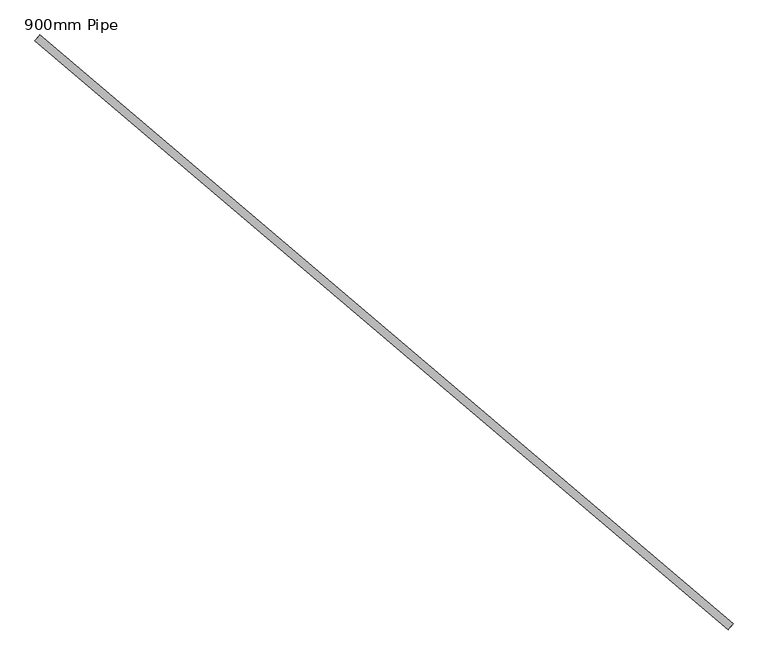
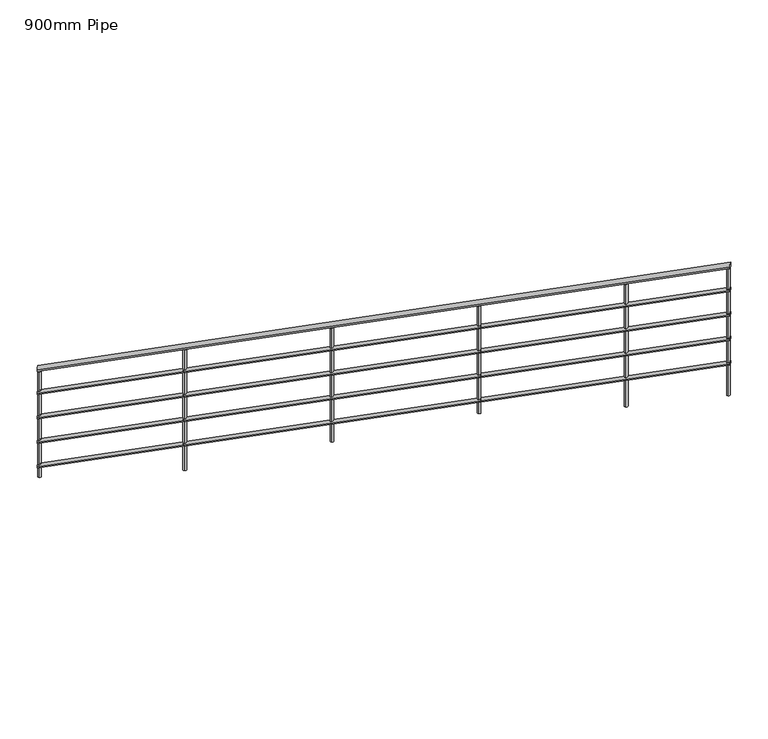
"""IFC4 building model written with IfcOpenShell, lengths in millimetres: railing geometry, 900mm Pipe."""

from ifc_helpers import new_model, si_unit, frame, origin, place, context, project, spatial, circle_curve, ellipse_curve, source, transform, mapped, element, save
from ifc_brep_helpers import plane_surface, cylinder_surface, advanced_brep


def railing_900mm_pipe_b8c9b738(model_context):
    return source(origin(), model_context, "Body", "AdvancedBrep", [
        advanced_brep(
        [(849600.7277722, 50607.9907218, 2058.386247), (849574.833531, 50577.5032116, 2058.386247), (853188.5636462, 47560.7006333, 3492.7391882), (853162.6694051, 47530.2131232, 3492.7391882)],
        [
            (0, 1, ellipse_curve(frame((849587.7806516, 50592.7469667, 2058.386247), z_axis=(-0.7621877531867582, 0.6473560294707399, 0.0), x_axis=(0.0, 0.0, -1.0)), 20.9078706, 20.0)),
            (1, 0, ellipse_curve(frame((849587.7806516, 50592.7469667, 2058.386247), z_axis=(-0.7621877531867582, 0.6473560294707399, 0.0), x_axis=(0.0, 0.0, -1.0)), 20.9078706, 20.0)),
            (2, 3, ellipse_curve(frame((853175.6165256, 47545.4568783, 3492.7391882), z_axis=(0.7621877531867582, -0.6473560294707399, 0.0), x_axis=(0.0, 0.0, -1.0)), 20.9078706, 20.0)),
            (3, 2, ellipse_curve(frame((853175.6165256, 47545.4568783, 3492.7391882), z_axis=(0.7621877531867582, -0.6473560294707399, 0.0), x_axis=(0.0, 0.0, -1.0)), 20.9078706, 20.0)),
            (0, 2),
            (3, 1),
        ],
        [
            plane_surface(frame((849587.7806516, 50592.7469667, 2079.2941176), z_axis=(-0.7621877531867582, 0.6473560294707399, 0.0), x_axis=(0.6473560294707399, 0.7621877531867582, 0.0))),
            plane_surface(frame((853175.6165256, 47545.4568783, 3513.6470588), z_axis=(0.7621877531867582, -0.6473560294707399, 0.0), x_axis=(0.6473560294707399, 0.7621877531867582, 0.0))),
            cylinder_surface(frame((849592.2238692, 50588.9731673, 2060.1625663), z_axis=(-0.7290917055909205, 0.6192462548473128, -0.2914778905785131), x_axis=(-0.6473560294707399, -0.7621877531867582, 0.0)), 20.0),
        ],
        [
            (0, [[1, 2]]),
            (1, [[3, 4]]),
            (2, [[-1, 5, -4, 6]]),
            (2, [[-2, -6, -3, -5]]),
        ],
    ),
        advanced_brep(
        [(849597.4909921, 50604.179783, 1863.6132147), (849578.0703112, 50581.3141504, 1863.6132147), (853185.3268661, 47556.8896946, 3297.9661558), (853165.9061852, 47534.024062, 3297.9661558)],
        [
            (0, 1, ellipse_curve(frame((849587.7806516, 50592.7469667, 1863.6132147), z_axis=(-0.7621877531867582, 0.6473560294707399, 0.0), x_axis=(0.0, 0.0, -1.0)), 15.680903, 15.0)),
            (1, 0, ellipse_curve(frame((849587.7806516, 50592.7469667, 1863.6132147), z_axis=(-0.7621877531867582, 0.6473560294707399, 0.0), x_axis=(0.0, 0.0, -1.0)), 15.680903, 15.0)),
            (2, 3, ellipse_curve(frame((853175.6165256, 47545.4568783, 3297.9661558), z_axis=(0.7621877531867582, -0.6473560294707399, 0.0), x_axis=(0.0, 0.0, -1.0)), 15.680903, 15.0)),
            (3, 2, ellipse_curve(frame((853175.6165256, 47545.4568783, 3297.9661558), z_axis=(0.7621877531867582, -0.6473560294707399, 0.0), x_axis=(0.0, 0.0, -1.0)), 15.680903, 15.0)),
            (0, 2),
            (3, 1),
        ],
        [
            plane_surface(frame((849587.7806516, 50592.7469667, 1879.2941176), z_axis=(-0.7621877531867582, 0.6473560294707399, 0.0), x_axis=(0.6473560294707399, 0.7621877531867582, 0.0))),
            plane_surface(frame((853175.6165256, 47545.4568783, 3313.6470588), z_axis=(0.7621877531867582, -0.6473560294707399, 0.0), x_axis=(0.6473560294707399, 0.7621877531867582, 0.0))),
            cylinder_surface(frame((849591.1130648, 50589.9166171, 1864.9454542), z_axis=(-0.7290917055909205, 0.6192462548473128, -0.2914778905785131), x_axis=(-0.6473560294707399, -0.7621877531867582, 0.0)), 15.0),
        ],
        [
            (0, [[1, 2]]),
            (1, [[3, 4]]),
            (2, [[-1, 5, -4, 6]]),
            (2, [[-2, -6, -3, -5]]),
        ],
    ),
        advanced_brep(
        [(849597.4909921, 50604.179783, 1663.6132147), (849578.0703112, 50581.3141504, 1663.6132147), (853185.3268661, 47556.8896946, 3097.9661558), (853165.9061852, 47534.024062, 3097.9661558)],
        [
            (0, 1, ellipse_curve(frame((849587.7806516, 50592.7469667, 1663.6132147), z_axis=(-0.7621877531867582, 0.6473560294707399, 0.0), x_axis=(0.0, 0.0, -1.0)), 15.680903, 15.0)),
            (1, 0, ellipse_curve(frame((849587.7806516, 50592.7469667, 1663.6132147), z_axis=(-0.7621877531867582, 0.6473560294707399, 0.0), x_axis=(0.0, 0.0, -1.0)), 15.680903, 15.0)),
            (2, 3, ellipse_curve(frame((853175.6165256, 47545.4568783, 3097.9661558), z_axis=(0.7621877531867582, -0.6473560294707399, 0.0), x_axis=(0.0, 0.0, -1.0)), 15.680903, 15.0)),
            (3, 2, ellipse_curve(frame((853175.6165256, 47545.4568783, 3097.9661558), z_axis=(0.7621877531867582, -0.6473560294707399, 0.0), x_axis=(0.0, 0.0, -1.0)), 15.680903, 15.0)),
            (0, 2),
            (3, 1),
        ],
        [
            plane_surface(frame((849587.7806516, 50592.7469667, 1679.2941176), z_axis=(-0.7621877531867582, 0.6473560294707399, 0.0), x_axis=(0.6473560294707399, 0.7621877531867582, 0.0))),
            plane_surface(frame((853175.6165256, 47545.4568783, 3113.6470588), z_axis=(0.7621877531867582, -0.6473560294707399, 0.0), x_axis=(0.6473560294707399, 0.7621877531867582, 0.0))),
            cylinder_surface(frame((849591.1130648, 50589.9166171, 1664.9454542), z_axis=(-0.7290917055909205, 0.6192462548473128, -0.2914778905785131), x_axis=(-0.6473560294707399, -0.7621877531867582, 0.0)), 15.0),
        ],
        [
            (0, [[1, 2]]),
            (1, [[3, 4]]),
            (2, [[-1, 5, -4, 6]]),
            (2, [[-2, -6, -3, -5]]),
        ],
    ),
        advanced_brep(
        [(849597.4909921, 50604.179783, 1463.6132147), (849578.0703112, 50581.3141504, 1463.6132147), (853185.3268661, 47556.8896946, 2897.9661558), (853165.9061852, 47534.024062, 2897.9661558)],
        [
            (0, 1, ellipse_curve(frame((849587.7806516, 50592.7469667, 1463.6132147), z_axis=(-0.7621877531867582, 0.6473560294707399, 0.0), x_axis=(0.0, 0.0, -1.0)), 15.680903, 15.0)),
            (1, 0, ellipse_curve(frame((849587.7806516, 50592.7469667, 1463.6132147), z_axis=(-0.7621877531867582, 0.6473560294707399, 0.0), x_axis=(0.0, 0.0, -1.0)), 15.680903, 15.0)),
            (2, 3, ellipse_curve(frame((853175.6165256, 47545.4568783, 2897.9661558), z_axis=(0.7621877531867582, -0.6473560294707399, 0.0), x_axis=(0.0, 0.0, -1.0)), 15.680903, 15.0)),
            (3, 2, ellipse_curve(frame((853175.6165256, 47545.4568783, 2897.9661558), z_axis=(0.7621877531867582, -0.6473560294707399, 0.0), x_axis=(0.0, 0.0, -1.0)), 15.680903, 15.0)),
            (0, 2),
            (3, 1),
        ],
        [
            plane_surface(frame((849587.7806516, 50592.7469667, 1479.2941176), z_axis=(-0.7621877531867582, 0.6473560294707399, 0.0), x_axis=(0.6473560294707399, 0.7621877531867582, 0.0))),
            plane_surface(frame((853175.6165256, 47545.4568783, 2913.6470588), z_axis=(0.7621877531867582, -0.6473560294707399, 0.0), x_axis=(0.6473560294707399, 0.7621877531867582, 0.0))),
            cylinder_surface(frame((849591.1130648, 50589.9166171, 1464.9454542), z_axis=(-0.7290917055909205, 0.6192462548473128, -0.2914778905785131), x_axis=(-0.6473560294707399, -0.7621877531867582, 0.0)), 15.0),
        ],
        [
            (0, [[1, 2]]),
            (1, [[3, 4]]),
            (2, [[-1, 5, -4, 6]]),
            (2, [[-2, -6, -3, -5]]),
        ],
    ),
        advanced_brep(
        [(849597.4909921, 50604.179783, 1263.6132147), (849578.0703112, 50581.3141504, 1263.6132147), (853185.3268661, 47556.8896946, 2697.9661558), (853165.9061852, 47534.024062, 2697.9661558)],
        [
            (0, 1, ellipse_curve(frame((849587.7806516, 50592.7469667, 1263.6132147), z_axis=(-0.7621877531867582, 0.6473560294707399, 0.0), x_axis=(0.0, 0.0, -1.0)), 15.680903, 15.0)),
            (1, 0, ellipse_curve(frame((849587.7806516, 50592.7469667, 1263.6132147), z_axis=(-0.7621877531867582, 0.6473560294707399, 0.0), x_axis=(0.0, 0.0, -1.0)), 15.680903, 15.0)),
            (2, 3, ellipse_curve(frame((853175.6165256, 47545.4568783, 2697.9661558), z_axis=(0.7621877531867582, -0.6473560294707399, 0.0), x_axis=(0.0, 0.0, -1.0)), 15.680903, 15.0)),
            (3, 2, ellipse_curve(frame((853175.6165256, 47545.4568783, 2697.9661558), z_axis=(0.7621877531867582, -0.6473560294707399, 0.0), x_axis=(0.0, 0.0, -1.0)), 15.680903, 15.0)),
            (0, 2),
            (3, 1),
        ],
        [
            plane_surface(frame((849587.7806516, 50592.7469667, 1279.2941176), z_axis=(-0.7621877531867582, 0.6473560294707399, 0.0), x_axis=(0.6473560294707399, 0.7621877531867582, 0.0))),
            plane_surface(frame((853175.6165256, 47545.4568783, 2713.6470588), z_axis=(0.7621877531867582, -0.6473560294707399, 0.0), x_axis=(0.6473560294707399, 0.7621877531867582, 0.0))),
            cylinder_surface(frame((849591.1130648, 50589.9166171, 1264.9454542), z_axis=(-0.7290917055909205, 0.6192462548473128, -0.2914778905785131), x_axis=(-0.6473560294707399, -0.7621877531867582, 0.0)), 15.0),
        ],
        [
            (0, [[1, 2]]),
            (1, [[3, 4]]),
            (2, [[-1, 5, -4, 6]]),
            (2, [[-2, -6, -3, -5]]),
        ],
    ),
        advanced_brep(
        [(852628.439714, 47993.7955019, 3256.3147824), (852628.439714, 47993.7955019, 2255.0588235), (852644.6236147, 48012.8501957, 2255.0588235), (852644.6236147, 48012.8501957, 3256.3147824)],
        [
            (0, 1),
            (1, 2, circle_curve(frame((852636.5316644, 48003.3228488, 2255.0588235), z_axis=(0.0, 0.0, 1.0), x_axis=(0.6473560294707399, 0.7621877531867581, 0.0)), 12.5)),
            (2, 3),
            (3, 0, ellipse_curve(frame((852636.5316644, 48003.3228488, 3256.3147824), z_axis=(0.22216087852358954, -0.18868996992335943, -0.9565775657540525), x_axis=(0.7290917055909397, -0.6192462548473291, 0.2914778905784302)), 13.0674191, 12.5)),
            (0, 3, ellipse_curve(frame((852636.5316644, 48003.3228488, 3256.3147824), z_axis=(0.22216087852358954, -0.18868996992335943, -0.9565775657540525), x_axis=(0.7290917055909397, -0.6192462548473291, 0.2914778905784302)), 13.0674191, 12.5)),
            (2, 1, circle_curve(frame((852636.5316644, 48003.3228488, 2255.0588235), z_axis=(0.0, 0.0, 1.0), x_axis=(0.6473560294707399, 0.7621877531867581, 0.0)), 12.5)),
        ],
        [
            cylinder_surface(frame((852636.5316644, 48003.3228488, 2155.0588235), z_axis=(0.0, 0.0, 1.0), x_axis=(0.6473560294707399, 0.7621877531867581, 0.0)), 12.5),
            plane_surface(frame((852671.7702589, 48006.1936419, 3263.9325099), z_axis=(-0.22216087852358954, 0.18868996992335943, 0.9565775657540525), x_axis=(-0.6473560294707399, -0.7621877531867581, 0.0))),
            plane_surface(frame((852633.6608713, 48038.5614434, 2255.0588235), z_axis=(0.0, 0.0, -1.0), x_axis=(-0.6473560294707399, -0.7621877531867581, 0.0))),
        ],
        [
            (0, [[1, 2, 3, 4]]),
            (0, [[-1, 5, -3, 6]]),
            (1, [[-4, -5]]),
            (2, [[-2, -6]]),
        ],
    ),
        advanced_brep(
        [(851866.2519608, 48641.1515314, 2951.6056809), (851866.2519608, 48641.1515314, 2075.7647059), (851882.4358616, 48660.2062252, 2075.7647059), (851882.4358616, 48660.2062252, 2951.6056809)],
        [
            (0, 1),
            (1, 2, circle_curve(frame((851874.3439112, 48650.6788783, 2075.7647059), z_axis=(0.0, 0.0, 1.0), x_axis=(0.6473560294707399, 0.7621877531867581, 0.0)), 12.5)),
            (2, 3),
            (3, 0, ellipse_curve(frame((851874.3439112, 48650.6788783, 2951.6056809), z_axis=(0.22216087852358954, -0.18868996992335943, -0.9565775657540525), x_axis=(0.7290917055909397, -0.6192462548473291, 0.2914778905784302)), 13.0674191, 12.5)),
            (0, 3, ellipse_curve(frame((851874.3439112, 48650.6788783, 2951.6056809), z_axis=(0.22216087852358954, -0.18868996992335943, -0.9565775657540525), x_axis=(0.7290917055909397, -0.6192462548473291, 0.2914778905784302)), 13.0674191, 12.5)),
            (2, 1, circle_curve(frame((851874.3439112, 48650.6788783, 2075.7647059), z_axis=(0.0, 0.0, 1.0), x_axis=(0.6473560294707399, 0.7621877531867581, 0.0)), 12.5)),
        ],
        [
            cylinder_surface(frame((851874.3439112, 48650.6788783, 1975.7647059), z_axis=(0.0, 0.0, 1.0), x_axis=(0.6473560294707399, 0.7621877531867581, 0.0)), 12.5),
            plane_surface(frame((851909.5825057, 48653.5496714, 2959.2234084), z_axis=(-0.22216087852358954, 0.18868996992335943, 0.9565775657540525), x_axis=(-0.6473560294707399, -0.7621877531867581, 0.0))),
            plane_surface(frame((851871.4731181, 48685.9174728, 2075.7647059), z_axis=(0.0, 0.0, -1.0), x_axis=(-0.6473560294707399, -0.7621877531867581, 0.0))),
        ],
        [
            (0, [[1, 2, 3, 4]]),
            (0, [[-1, 5, -3, 6]]),
            (1, [[-4, -5]]),
            (2, [[-2, -6]]),
        ],
    ),
        advanced_brep(
        [(851104.0642076, 49288.5075608, 2646.8965794), (851104.0642076, 49288.5075608, 1717.1764706), (851120.2481084, 49307.5622547, 1717.1764706), (851120.2481084, 49307.5622547, 2646.8965794)],
        [
            (0, 1),
            (1, 2, circle_curve(frame((851112.156158, 49298.0349078, 1717.1764706), z_axis=(0.0, 0.0, 1.0), x_axis=(0.6473560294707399, 0.7621877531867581, 0.0)), 12.5)),
            (2, 3),
            (3, 0, ellipse_curve(frame((851112.156158, 49298.0349078, 2646.8965794), z_axis=(0.22216087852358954, -0.18868996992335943, -0.9565775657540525), x_axis=(0.7290917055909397, -0.6192462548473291, 0.2914778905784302)), 13.0674191, 12.5)),
            (0, 3, ellipse_curve(frame((851112.156158, 49298.0349078, 2646.8965794), z_axis=(0.22216087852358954, -0.18868996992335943, -0.9565775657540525), x_axis=(0.7290917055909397, -0.6192462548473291, 0.2914778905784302)), 13.0674191, 12.5)),
            (2, 1, circle_curve(frame((851112.156158, 49298.0349078, 1717.1764706), z_axis=(0.0, 0.0, 1.0), x_axis=(0.6473560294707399, 0.7621877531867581, 0.0)), 12.5)),
        ],
        [
            cylinder_surface(frame((851112.156158, 49298.0349078, 1617.1764706), z_axis=(0.0, 0.0, 1.0), x_axis=(0.6473560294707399, 0.7621877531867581, 0.0)), 12.5),
            plane_surface(frame((851147.3947526, 49300.9057008, 2654.5143069), z_axis=(-0.22216087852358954, 0.18868996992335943, 0.9565775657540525), x_axis=(-0.6473560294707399, -0.7621877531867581, 0.0))),
            plane_surface(frame((851109.2853649, 49333.2735023, 1717.1764706), z_axis=(0.0, 0.0, -1.0), x_axis=(-0.6473560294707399, -0.7621877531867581, 0.0))),
        ],
        [
            (0, [[1, 2, 3, 4]]),
            (0, [[-1, 5, -3, 6]]),
            (1, [[-4, -5]]),
            (2, [[-2, -6]]),
        ],
    ),
        advanced_brep(
        [(850341.8764544, 49935.8635903, 2342.1874779), (850341.8764544, 49935.8635903, 1358.5882353), (850358.0603552, 49954.9182841, 1358.5882353), (850358.0603552, 49954.9182841, 2342.1874779)],
        [
            (0, 1),
            (1, 2, circle_curve(frame((850349.9684048, 49945.3909372, 1358.5882353), z_axis=(0.0, 0.0, 1.0), x_axis=(0.6473560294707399, 0.7621877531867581, 0.0)), 12.5)),
            (2, 3),
            (3, 0, ellipse_curve(frame((850349.9684048, 49945.3909372, 2342.1874779), z_axis=(0.22216087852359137, -0.18868996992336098, -0.9565775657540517), x_axis=(0.7290917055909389, -0.6192462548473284, 0.29147789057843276)), 13.0674191, 12.5)),
            (0, 3, ellipse_curve(frame((850349.9684048, 49945.3909372, 2342.1874779), z_axis=(0.22216087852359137, -0.18868996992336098, -0.9565775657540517), x_axis=(0.7290917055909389, -0.6192462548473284, 0.29147789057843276)), 13.0674191, 12.5)),
            (2, 1, circle_curve(frame((850349.9684048, 49945.3909372, 1358.5882353), z_axis=(0.0, 0.0, 1.0), x_axis=(0.6473560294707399, 0.7621877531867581, 0.0)), 12.5)),
        ],
        [
            cylinder_surface(frame((850349.9684048, 49945.3909372, 1258.5882353), z_axis=(0.0, 0.0, 1.0), x_axis=(0.6473560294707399, 0.7621877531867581, 0.0)), 12.5),
            plane_surface(frame((850385.2069994, 49948.2617303, 2349.8052054), z_axis=(-0.22216087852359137, 0.18868996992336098, 0.9565775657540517), x_axis=(-0.6473560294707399, -0.7621877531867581, 0.0))),
            plane_surface(frame((850347.0976117, 49980.6295318, 1358.5882353), z_axis=(0.0, 0.0, -1.0), x_axis=(-0.6473560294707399, -0.7621877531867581, 0.0))),
        ],
        [
            (0, [[1, 2, 3, 4]]),
            (0, [[-1, 5, -3, 6]]),
            (1, [[-4, -5]]),
            (2, [[-2, -6]]),
        ],
    ),
        advanced_brep(
        [(853157.9972284, 47544.0214817, 3468.0224538), (853157.9972284, 47544.0214817, 2434.3529412), (853174.1811291, 47563.0761756, 2434.3529412), (853174.1811291, 47563.0761756, 3468.0224538)],
        [
            (0, 1),
            (1, 2, circle_curve(frame((853166.0891787, 47553.5488286, 2434.3529412), z_axis=(0.0, 0.0, 1.0), x_axis=(0.6473560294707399, 0.7621877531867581, 0.0)), 12.5)),
            (2, 3),
            (3, 0, ellipse_curve(frame((853166.0891787, 47553.5488286, 3468.0224538), z_axis=(0.22216087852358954, -0.18868996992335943, -0.9565775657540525), x_axis=(0.7290917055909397, -0.6192462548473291, 0.2914778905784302)), 13.0674191, 12.5)),
            (0, 3, ellipse_curve(frame((853166.0891787, 47553.5488286, 3468.0224538), z_axis=(0.22216087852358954, -0.18868996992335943, -0.9565775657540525), x_axis=(0.7290917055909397, -0.6192462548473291, 0.2914778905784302)), 13.0674191, 12.5)),
            (2, 1, circle_curve(frame((853166.0891787, 47553.5488286, 2434.3529412), z_axis=(0.0, 0.0, 1.0), x_axis=(0.6473560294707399, 0.7621877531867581, 0.0)), 12.5)),
        ],
        [
            cylinder_surface(frame((853166.0891787, 47553.5488286, 2334.3529412), z_axis=(0.0, 0.0, 1.0), x_axis=(0.6473560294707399, 0.7621877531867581, 0.0)), 12.5),
            plane_surface(frame((853201.3277733, 47556.4196217, 3475.6401813), z_axis=(-0.22216087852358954, 0.18868996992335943, 0.9565775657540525), x_axis=(-0.6473560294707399, -0.7621877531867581, 0.0))),
            plane_surface(frame((853163.2183856, 47588.7874232, 2434.3529412), z_axis=(0.0, 0.0, -1.0), x_axis=(-0.6473560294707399, -0.7621877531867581, 0.0))),
        ],
        [
            (0, [[1, 2, 3, 4]]),
            (0, [[-1, 5, -3, 6]]),
            (1, [[-4, -5]]),
            (2, [[-2, -6]]),
        ],
    ),
        advanced_brep(
        [(849589.2160482, 50575.1276694, 2041.2872401), (849589.2160482, 50575.1276694, 1179.2941176), (849605.3999489, 50594.1823632, 1179.2941176), (849605.3999489, 50594.1823632, 2041.2872401)],
        [
            (0, 1),
            (1, 2, circle_curve(frame((849597.3079985, 50584.6550163, 1179.2941176), z_axis=(0.0, 0.0, 1.0), x_axis=(0.6473560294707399, 0.7621877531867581, 0.0)), 12.5)),
            (2, 3),
            (3, 0, ellipse_curve(frame((849597.3079985, 50584.6550163, 2041.2872401), z_axis=(0.22216087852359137, -0.18868996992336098, -0.9565775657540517), x_axis=(0.7290917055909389, -0.6192462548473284, 0.29147789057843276)), 13.0674191, 12.5)),
            (0, 3, ellipse_curve(frame((849597.3079985, 50584.6550163, 2041.2872401), z_axis=(0.22216087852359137, -0.18868996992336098, -0.9565775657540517), x_axis=(0.7290917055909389, -0.6192462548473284, 0.29147789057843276)), 13.0674191, 12.5)),
            (2, 1, circle_curve(frame((849597.3079985, 50584.6550163, 1179.2941176), z_axis=(0.0, 0.0, 1.0), x_axis=(0.6473560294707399, 0.7621877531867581, 0.0)), 12.5)),
        ],
        [
            cylinder_surface(frame((849597.3079985, 50584.6550163, 1079.2941176), z_axis=(0.0, 0.0, 1.0), x_axis=(0.6473560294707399, 0.7621877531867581, 0.0)), 12.5),
            plane_surface(frame((849632.5465931, 50587.5258094, 2048.9049677), z_axis=(-0.22216087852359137, 0.18868996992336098, 0.9565775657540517), x_axis=(-0.6473560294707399, -0.7621877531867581, 0.0))),
            plane_surface(frame((849594.4372054, 50619.8936109, 1179.2941176), z_axis=(0.0, 0.0, -1.0), x_axis=(-0.6473560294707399, -0.7621877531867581, 0.0))),
        ],
        [
            (0, [[1, 2, 3, 4]]),
            (0, [[-1, 5, -3, 6]]),
            (1, [[-4, -5]]),
            (2, [[-2, -6]]),
        ],
    ),
    ])


if __name__ == "__main__":
    model = new_model("IFC4")
    model_context = context("Model", 3, world=origin())
    ifc_project = project(units=[si_unit("LENGTHUNIT", "METRE", prefix="MILLI")], contexts=[model_context])
    site = spatial("IfcSite", under=ifc_project)
    building = spatial("IfcBuilding", under=site)
    placement = place(None, origin())
    railing_900mm_pipe_shape = railing_900mm_pipe_b8c9b738(model_context)
    element("IfcRailing", 1, ObjectType="900mm Pipe", at=placement, inside=building, context=model_context, shape_type="MappedRepresentation", body=[
        mapped(railing_900mm_pipe_shape, transform((0.0, 0.0, 0.0), x_axis=(1.0, 0.0, 0.0), y_axis=(0.0, 1.0, 0.0), z_axis=(0.0, 0.0, 1.0))),
    ])
    save(model, "model.ifc")
